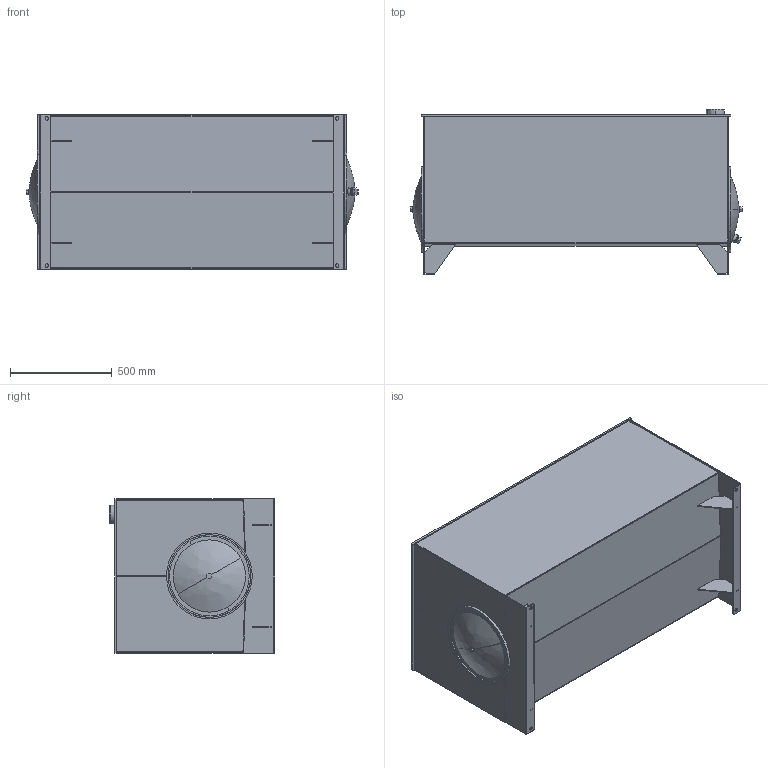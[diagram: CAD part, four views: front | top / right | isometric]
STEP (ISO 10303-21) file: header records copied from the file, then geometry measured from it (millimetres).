
FILE_DESCRIPTION (( 'STEP AP214' ), '1' );
FILE_NAME ('T2-150.STEP', '2022-01-10T10:43:33', ( '' ), ( '' ), 'SwSTEP 2.0', 'SolidWorks 2013', '' );
FILE_SCHEMA (( 'AUTOMOTIVE_DESIGN' ));
Length unit declared in the file: inch
Products named in the file (17): 0.625 - 11 HEX BOLT; TL-ECD-16; CRUSH WASHER; 0.625 - 11 BAFFLE NUT; T2-150-GST; T2-150-BFL; 16.00 GASKET; T2-150; DRAIN; 16.00 END COVER; T2-150-LD; T2-150-BDY; FILLER RISER; TL-EC-16; T2-150-EB; T2-150-EA; 16.00 END COVER WITH DRAIN
Assembly tree (23 placements, depth 3):
  T2-150
    T2-150-LD
    T2-150-EA
    T2-150-EB
    T2-150-BDY
    T2-150-BFL
    T2-150-GST  x4
    FILLER RISER
    TL-EC-16
      16.00 END COVER
      16.00 GASKET
      CRUSH WASHER
      0.625 - 11 HEX BOLT
      0.625 - 11 BAFFLE NUT
    TL-ECD-16
      16.00 GASKET
      CRUSH WASHER
      0.625 - 11 HEX BOLT
      0.625 - 11 BAFFLE NUT
      16.00 END COVER WITH DRAIN
      DRAIN
Bounding box: 1633.2 x 812.8 x 762 mm (x, y, z)
Volume: 31244820.5 mm3; surface area: 13258578.3 mm2
Topology: 22 solids, 22 shells, 294 faces, 676 edges, 434 vertices
Faces by surface type: plane 165, cylinder 109, cone 10, bspline 8, torus 2
Entity records: 8553 total; most frequent: CARTESIAN_POINT 1469, DIRECTION 1242, ORIENTED_EDGE 1076, EDGE_CURVE 538, AXIS2_PLACEMENT_3D 465, VERTEX_POINT 342, LINE 312, VECTOR 312
